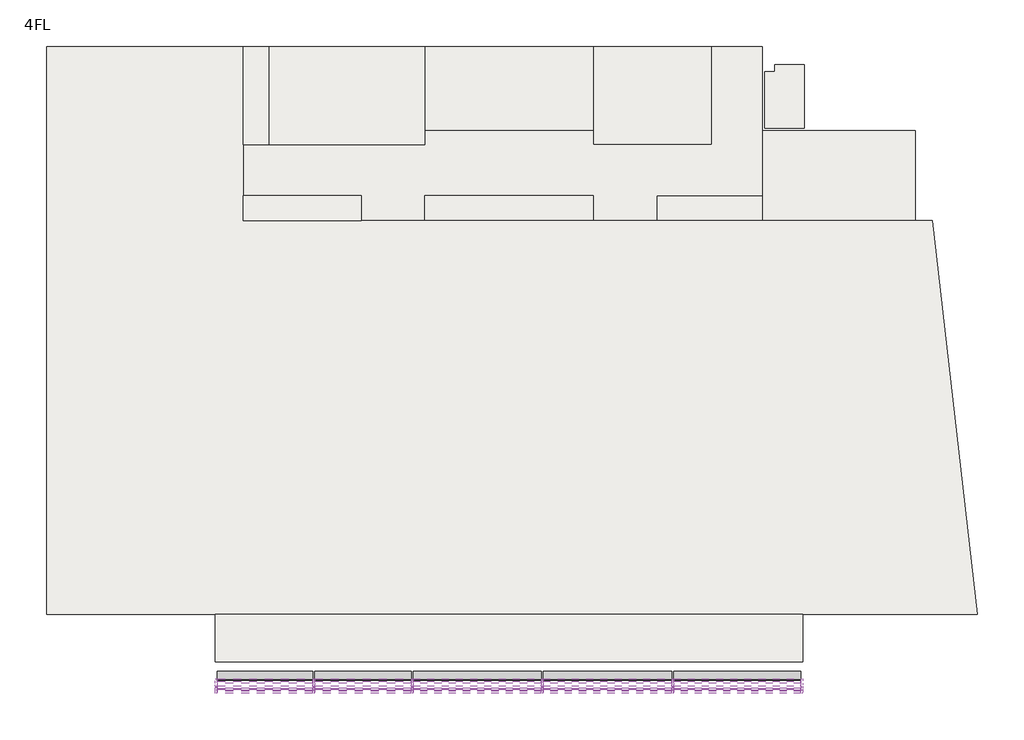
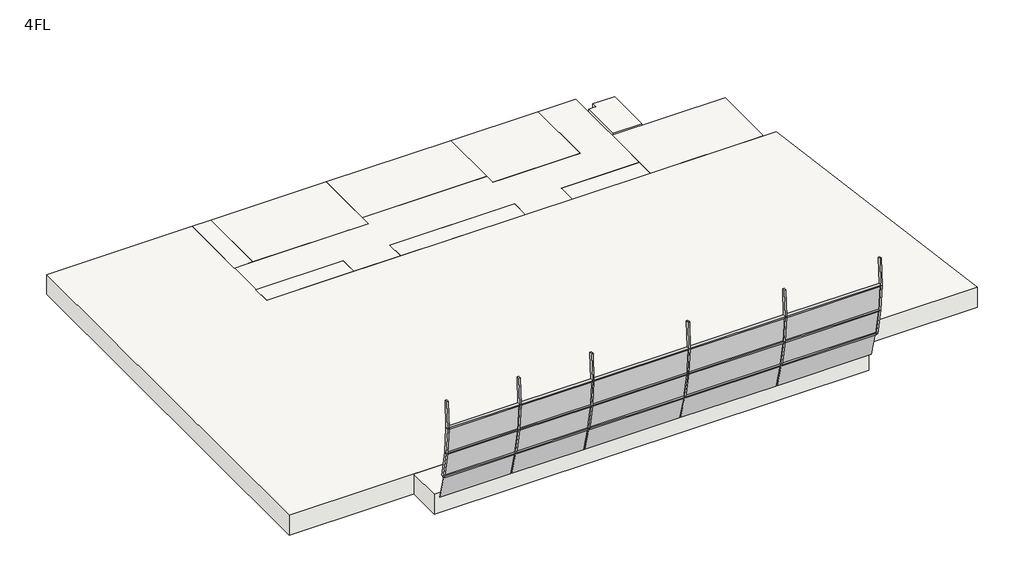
# One storey: 33 members, 15 plates, 12 slabs.
"""IFC4 building model written with IfcOpenShell, lengths in millimetres."""

from ifc_helpers import new_model, si_unit, frame, origin, place, context, project, spatial, polyline, outline, extrude, transform, mapped, element, save
from components import member_70x150_4d24a05e, member_70x150_d36ba8ce, member_70x150_5c89d520, member_70x150_7418113c, member_70x150_49631fa4, member_70x150_b58b1f55, member_70x150_9f3e030a, member_70x150_fc65bdc9, member_70x150_b9ec8dcc, member_70x150_0e33257c, member_70x150_66c9c7cc, member_70x150_285ebe9a, member_70x150_f63319ac, plate_d82af523, plate_48b88b42, plate_7301dfc9, plate_371e701f, plate_8de86a88, plate_27c09c2a, plate_88d5d3b8, plate_6cc786bc, plate_98c14705, plate_866a2cd3, plate_3d523d60, plate_eb713791

model = new_model("IFC4")

# Units and contexts
model_context = context("Model", 3, world=origin())
ifc_project = project(units=[si_unit("LENGTHUNIT", "METRE", prefix="MILLI")], contexts=[model_context])

# Site, building, storey
site = spatial("IfcSite", under=ifc_project)
building = spatial("IfcBuilding", under=site)
storey = spatial("IfcBuildingStorey", under=building, Name="4FL", Elevation=12600.0)

# Members
placement = place(None, origin())
member_70x150_shape = member_70x150_4d24a05e(model_context)
element("IfcMember", 1, ObjectType="長方形のマリオン : 70x150", at=placement, inside=storey, context=model_context, shape_type="MappedRepresentation", body=[
    mapped(member_70x150_shape, transform((-2015.9784025, -6300.1467421, 16600.0001959), x_axis=(0.0, -0.017107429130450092, 0.9998536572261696), y_axis=(0.0, -0.9998536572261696, -0.017107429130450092), z_axis=(1.0, 0.0, 0.0))),
])
element("IfcMember", 2, ObjectType="長方形のマリオン : 70x150", at=placement, inside=storey, context=model_context, shape_type="MappedRepresentation", body=[
    mapped(member_70x150_shape, transform((-2015.9784025, -6189.0499692, 15268.7417332), x_axis=(0.0, -0.14243240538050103, 0.9898045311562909), y_axis=(0.0, -0.9898045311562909, -0.14243240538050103), z_axis=(1.0, 0.0, 0.0))),
])
element("IfcMember", 3, ObjectType="長方形のマリオン : 70x150", at=placement, inside=storey, context=model_context, shape_type="MappedRepresentation", body=[
    mapped(member_70x150_shape, transform((-2015.9784025, -5931.9972221, 13935.1229806), x_axis=(0.0, -0.22949640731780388, 0.9733095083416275), y_axis=(0.0, -0.9733095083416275, -0.22949640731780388), z_axis=(1.0, 0.0, 0.0))),
])
member_70x150_2_shape = member_70x150_d36ba8ce(model_context)
element("IfcMember", 4, ObjectType="長方形のマリオン : 70x150", at=placement, inside=storey, context=model_context, shape_type="MappedRepresentation", body=[
    mapped(member_70x150_2_shape, transform((-19380.9784025, -5931.9972221, 13935.1229806), x_axis=(0.0, -0.2294964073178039, 0.9733095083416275), y_axis=(0.0, -0.9733095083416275, -0.2294964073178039), z_axis=(1.0, 0.0, 0.0))),
])
element("IfcMember", 5, ObjectType="長方形のマリオン : 70x150", at=placement, inside=storey, context=model_context, shape_type="MappedRepresentation", body=[
    mapped(member_70x150_2_shape, transform((-19380.9784025, -6189.0499692, 15268.7417332), x_axis=(0.0, -0.14243240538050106, 0.9898045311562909), y_axis=(0.0, -0.9898045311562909, -0.14243240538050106), z_axis=(1.0, 0.0, 0.0))),
])
element("IfcMember", 6, ObjectType="長方形のマリオン : 70x150", at=placement, inside=storey, context=model_context, shape_type="MappedRepresentation", body=[
    mapped(member_70x150_2_shape, transform((-19380.9784025, -6300.1467421, 16600.0001959), x_axis=(0.0, -0.017107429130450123, 0.9998536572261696), y_axis=(0.0, -0.9998536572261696, -0.017107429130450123), z_axis=(1.0, 0.0, 0.0))),
])
member_70x150_3_shape = member_70x150_5c89d520(model_context)
element("IfcMember", 7, ObjectType="長方形のマリオン : 70x150", at=placement, inside=storey, context=model_context, shape_type="MappedRepresentation", body=[
    mapped(member_70x150_3_shape, transform((-6614.3117358, -6300.1467421, 16600.0001959), x_axis=(0.0, -0.017107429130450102, 0.9998536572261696), y_axis=(0.0, -0.9998536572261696, -0.017107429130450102), z_axis=(1.0, 0.0, 0.0))),
])
element("IfcMember", 8, ObjectType="長方形のマリオン : 70x150", at=placement, inside=storey, context=model_context, shape_type="MappedRepresentation", body=[
    mapped(member_70x150_3_shape, transform((-11247.6450692, -6189.0499692, 15268.7417332), x_axis=(0.0, -0.1424324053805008, 0.9898045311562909), y_axis=(0.0, -0.9898045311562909, -0.1424324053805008), z_axis=(1.0, 0.0, 0.0))),
])
element("IfcMember", 9, ObjectType="長方形のマリオン : 70x150", at=placement, inside=storey, context=model_context, shape_type="MappedRepresentation", body=[
    mapped(member_70x150_3_shape, transform((-6614.3117358, -5931.9972221, 13935.1229806), x_axis=(0.0, -0.2294964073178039, 0.9733095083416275), y_axis=(0.0, -0.9733095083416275, -0.2294964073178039), z_axis=(1.0, 0.0, 0.0))),
])
element("IfcMember", 10, ObjectType="長方形のマリオン : 70x150", at=placement, inside=storey, context=model_context, shape_type="MappedRepresentation", body=[
    mapped(member_70x150_3_shape, transform((-11247.6450692, -5931.9972221, 13935.1229806), x_axis=(0.0, -0.22949640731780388, 0.9733095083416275), y_axis=(0.0, -0.9733095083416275, -0.22949640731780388), z_axis=(1.0, 0.0, 0.0))),
])
element("IfcMember", 11, ObjectType="長方形のマリオン : 70x150", at=placement, inside=storey, context=model_context, shape_type="MappedRepresentation", body=[
    mapped(member_70x150_3_shape, transform((-6614.3117358, -6189.0499692, 15268.7417332), x_axis=(0.0, -0.1424324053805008, 0.9898045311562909), y_axis=(0.0, -0.9898045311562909, -0.1424324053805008), z_axis=(1.0, 0.0, 0.0))),
])
element("IfcMember", 12, ObjectType="長方形のマリオン : 70x150", at=placement, inside=storey, context=model_context, shape_type="MappedRepresentation", body=[
    mapped(member_70x150_3_shape, transform((-11247.6450692, -6300.1467421, 16600.0001959), x_axis=(0.0, -0.017107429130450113, 0.9998536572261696), y_axis=(0.0, -0.9998536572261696, -0.017107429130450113), z_axis=(1.0, 0.0, 0.0))),
])
member_70x150_4_shape = member_70x150_7418113c(model_context)
element("IfcMember", 13, ObjectType="長方形のマリオン : 70x150", at=placement, inside=storey, context=model_context, shape_type="MappedRepresentation", body=[
    mapped(member_70x150_4_shape, transform((-15880.9784025, -5931.9972221, 13935.1229806), x_axis=(0.0, -0.22949640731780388, 0.9733095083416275), y_axis=(0.0, -0.9733095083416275, -0.22949640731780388), z_axis=(1.0, 0.0, 0.0))),
])
element("IfcMember", 14, ObjectType="長方形のマリオン : 70x150", at=placement, inside=storey, context=model_context, shape_type="MappedRepresentation", body=[
    mapped(member_70x150_4_shape, transform((-15880.9784025, -6189.0499692, 15268.7417332), x_axis=(0.0, -0.1424324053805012, 0.9898045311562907), y_axis=(0.0, -0.9898045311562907, -0.1424324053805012), z_axis=(1.0, 0.0, 0.0))),
])
element("IfcMember", 15, ObjectType="長方形のマリオン : 70x150", at=placement, inside=storey, context=model_context, shape_type="MappedRepresentation", body=[
    mapped(member_70x150_4_shape, transform((-15880.9784025, -6300.1467421, 16600.0001959), x_axis=(0.0, -0.01710742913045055, 0.9998536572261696), y_axis=(0.0, -0.9998536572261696, -0.01710742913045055), z_axis=(1.0, 0.0, 0.0))),
])
member_70x150_5_shape = member_70x150_49631fa4(model_context)
element("IfcMember", 16, ObjectType="長方形のマリオン : 70x150", at=placement, inside=storey, context=model_context, shape_type="MappedRepresentation", body=[
    mapped(member_70x150_5_shape, transform((-15845.9784025, -6189.0499692, 15268.7417332), x_axis=(1.0, 0.0, 0.0), y_axis=(0.0, -0.9965359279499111, -0.08316335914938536), z_axis=(0.0, 0.08316335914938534, -0.9965359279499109))),
])
element("IfcMember", 17, ObjectType="長方形のマリオン : 70x150", at=placement, inside=storey, context=model_context, shape_type="MappedRepresentation", body=[
    mapped(member_70x150_5_shape, transform((-6579.3117358, -6189.0499692, 15268.7417332), x_axis=(1.0, 0.0, 0.0), y_axis=(0.0, -0.9965359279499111, -0.08316335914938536), z_axis=(0.0, 0.08316335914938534, -0.9965359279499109))),
])
element("IfcMember", 18, ObjectType="長方形のマリオン : 70x150", at=placement, inside=storey, context=model_context, shape_type="MappedRepresentation", body=[
    mapped(member_70x150_5_shape, transform((-11212.6450692, -6189.0499692, 15268.7417332), x_axis=(1.0, 0.0, 0.0), y_axis=(0.0, -0.9965359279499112, -0.08316335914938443), z_axis=(0.0, 0.08316335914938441, -0.9965359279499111))),
])
element("IfcMember", 19, ObjectType="長方形のマリオン : 70x150", at=placement, inside=storey, context=model_context, shape_type="MappedRepresentation", body=[
    mapped(member_70x150_5_shape, transform((-19345.9784025, -6189.0499692, 15268.7417332), x_axis=(1.0, 0.0, 0.0), y_axis=(0.0, -0.9965359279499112, -0.08316335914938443), z_axis=(0.0, 0.08316335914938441, -0.9965359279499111))),
])
member_70x150_6_shape = member_70x150_b58b1f55(model_context)
element("IfcMember", 20, ObjectType="長方形のマリオン : 70x150", at=placement, inside=storey, context=model_context, shape_type="MappedRepresentation", body=[
    mapped(member_70x150_6_shape, transform((-15845.9784025, -6300.1467421, 16600.0001959), x_axis=(1.0, 0.0, 0.0), y_axis=(0.0, -0.9987203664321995, 0.05057301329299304), z_axis=(0.0, -0.05057301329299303, -0.9987203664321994))),
])
element("IfcMember", 21, ObjectType="長方形のマリオン : 70x150", at=placement, inside=storey, context=model_context, shape_type="MappedRepresentation", body=[
    mapped(member_70x150_6_shape, transform((-6579.3117358, -6300.1467421, 16600.0001959), x_axis=(1.0, 0.0, 0.0), y_axis=(0.0, -0.9987203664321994, 0.05057301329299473), z_axis=(0.0, -0.05057301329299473, -0.9987203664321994))),
])
element("IfcMember", 22, ObjectType="長方形のマリオン : 70x150", at=placement, inside=storey, context=model_context, shape_type="MappedRepresentation", body=[
    mapped(member_70x150_6_shape, transform((-11212.6450692, -6300.1467421, 16600.0001959), x_axis=(1.0, 0.0, 0.0), y_axis=(0.0, -0.9987203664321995, 0.05057301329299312), z_axis=(0.0, -0.050573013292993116, -0.9987203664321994))),
])
element("IfcMember", 23, ObjectType="長方形のマリオン : 70x150", at=placement, inside=storey, context=model_context, shape_type="MappedRepresentation", body=[
    mapped(member_70x150_6_shape, transform((-19345.9784025, -6300.1467421, 16600.0001959), x_axis=(1.0, 0.0, 0.0), y_axis=(0.0, -0.9987203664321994, 0.05057301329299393), z_axis=(0.0, -0.05057301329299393, -0.9987203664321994))),
])
member_70x150_7_shape = member_70x150_9f3e030a(model_context)
element("IfcMember", 24, ObjectType="長方形のマリオン : 70x150", at=placement, inside=storey, context=model_context, shape_type="MappedRepresentation", body=[
    mapped(member_70x150_7_shape, transform((-1945.9784025, -5931.9972221, 13935.1229806), x_axis=(1.0, 0.0, 0.0), y_axis=(0.0, -0.9819261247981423, -0.18926459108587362), z_axis=(0.0, 0.18926459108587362, -0.9819261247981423))),
])
member_70x150_8_shape = member_70x150_fc65bdc9(model_context)
element("IfcMember", 25, ObjectType="長方形のマリオン : 70x150", at=placement, inside=storey, context=model_context, shape_type="MappedRepresentation", body=[
    mapped(member_70x150_8_shape, transform((-1945.9784025, -6189.0499692, 15268.7417332), x_axis=(1.0, 0.0, 0.0), y_axis=(0.0, -0.9965359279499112, -0.08316335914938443), z_axis=(0.0, 0.08316335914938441, -0.9965359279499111))),
])
member_70x150_9_shape = member_70x150_b9ec8dcc(model_context)
element("IfcMember", 26, ObjectType="長方形のマリオン : 70x150", at=placement, inside=storey, context=model_context, shape_type="MappedRepresentation", body=[
    mapped(member_70x150_9_shape, transform((-22845.9784025, -6300.1467421, 16600.0001959), x_axis=(-1.0, 0.0, 0.0), y_axis=(0.0, -0.9965359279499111, -0.08316335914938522), z_axis=(0.0, -0.08316335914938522, 0.9965359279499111))),
])
member_70x150_10_shape = member_70x150_0e33257c(model_context)
element("IfcMember", 27, ObjectType="長方形のマリオン : 70x150", at=placement, inside=storey, context=model_context, shape_type="MappedRepresentation", body=[
    mapped(member_70x150_10_shape, transform((-1945.9784025, -6300.1467421, 16600.0001959), x_axis=(1.0, 0.0, 0.0), y_axis=(0.0, -0.9987203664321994, 0.05057301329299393), z_axis=(0.0, -0.05057301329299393, -0.9987203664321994))),
])
member_70x150_11_shape = member_70x150_66c9c7cc(model_context)
element("IfcMember", 28, ObjectType="長方形のマリオン : 70x150", at=placement, inside=storey, context=model_context, shape_type="MappedRepresentation", body=[
    mapped(member_70x150_11_shape, transform((-22845.9784025, -6189.0499692, 15268.7417332), x_axis=(-1.0, 0.0, 0.0), y_axis=(0.0, -0.9819261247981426, -0.18926459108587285), z_axis=(0.0, -0.18926459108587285, 0.9819261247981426))),
])
member_70x150_12_shape = member_70x150_285ebe9a(model_context)
element("IfcMember", 29, ObjectType="長方形のマリオン : 70x150", at=placement, inside=storey, context=model_context, shape_type="MappedRepresentation", body=[
    mapped(member_70x150_12_shape, transform((-22845.9784025, -6232.5328334, 17935.2456809), x_axis=(-1.0, 0.0, 0.0), y_axis=(0.0, -0.9987203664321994, 0.05057301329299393), z_axis=(0.0, 0.05057301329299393, 0.9987203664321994))),
])
member_70x150_13_shape = member_70x150_f63319ac(model_context)
element("IfcMember", 30, ObjectType="長方形のマリオン : 70x150", at=placement, inside=storey, context=model_context, shape_type="MappedRepresentation", body=[
    mapped(member_70x150_13_shape, transform((-6579.3117358, -5931.9972221, 13935.1229806), x_axis=(1.0, 0.0, 0.0), y_axis=(0.0, -0.9819261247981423, -0.18926459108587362), z_axis=(0.0, 0.18926459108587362, -0.9819261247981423))),
])
element("IfcMember", 31, ObjectType="長方形のマリオン : 70x150", at=placement, inside=storey, context=model_context, shape_type="MappedRepresentation", body=[
    mapped(member_70x150_13_shape, transform((-11212.6450692, -5931.9972221, 13935.1229806), x_axis=(1.0, 0.0, 0.0), y_axis=(0.0, -0.9819261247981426, -0.18926459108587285), z_axis=(0.0, 0.18926459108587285, -0.9819261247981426))),
])
element("IfcMember", 32, ObjectType="長方形のマリオン : 70x150", at=placement, inside=storey, context=model_context, shape_type="MappedRepresentation", body=[
    mapped(member_70x150_13_shape, transform((-19345.9784025, -5931.9972221, 13935.1229806), x_axis=(1.0, 0.0, 0.0), y_axis=(0.0, -0.9819261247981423, -0.18926459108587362), z_axis=(0.0, 0.18926459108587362, -0.9819261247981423))),
])
element("IfcMember", 33, ObjectType="長方形のマリオン : 70x150", at=placement, inside=storey, context=model_context, shape_type="MappedRepresentation", body=[
    mapped(member_70x150_13_shape, transform((-15845.9784025, -5931.9972221, 13935.1229806), x_axis=(1.0, 0.0, 0.0), y_axis=(0.0, -0.9819261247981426, -0.18926459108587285), z_axis=(0.0, 0.18926459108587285, -0.9819261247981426))),
])

# Plates
plate_shape = plate_d82af523(model_context)
element("IfcPlate", 34, ObjectType="システム パネル : 標準", at=placement, inside=storey, context=model_context, shape_type="MappedRepresentation", body=[
    mapped(plate_shape, transform((-21078.4784025, -5584.1257928, 12633.8126833), x_axis=(1.0, 0.0, 0.0), y_axis=(0.0, 0.9660766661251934, 0.25825544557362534), z_axis=(0.0, -0.25825544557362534, 0.9660766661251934))),
])
plate_2_shape = plate_48b88b42(model_context)
element("IfcPlate", 35, ObjectType="システム パネル : 標準", at=placement, inside=storey, context=model_context, shape_type="MappedRepresentation", body=[
    mapped(plate_2_shape, transform((-21078.4784025, -6191.9606868, 15303.6204906), x_axis=(1.0, 0.0, 0.0), y_axis=(0.0, 0.9965359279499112, 0.08316335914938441), z_axis=(0.0, -0.08316335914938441, 0.9965359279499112))),
])
plate_3_shape = plate_7301dfc9(model_context)
element("IfcPlate", 36, ObjectType="システム パネル : 標準", at=placement, inside=storey, context=model_context, shape_type="MappedRepresentation", body=[
    mapped(plate_3_shape, transform((-21078.4784025, -5938.6214827, 13969.490395), x_axis=(1.0, 0.0, 0.0), y_axis=(0.0, 0.9819261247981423, 0.18926459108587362), z_axis=(0.0, -0.18926459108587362, 0.9819261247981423))),
])
plate_4_shape = plate_371e701f(model_context)
element("IfcPlate", 37, ObjectType="システム パネル : 標準", at=placement, inside=storey, context=model_context, shape_type="MappedRepresentation", body=[
    mapped(plate_4_shape, transform((-13529.3117358, -5584.1257928, 12633.8126833), x_axis=(1.0, 0.0, 0.0), y_axis=(0.0, 0.9660766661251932, 0.258255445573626), z_axis=(0.0, -0.258255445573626, 0.9660766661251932))),
])
element("IfcPlate", 38, ObjectType="システム パネル : 標準", at=placement, inside=storey, context=model_context, shape_type="MappedRepresentation", body=[
    mapped(plate_4_shape, transform((-8895.9784025, -5584.1257928, 12633.8126833), x_axis=(1.0, 0.0, 0.0), y_axis=(0.0, 0.9660766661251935, 0.25825544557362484), z_axis=(0.0, -0.25825544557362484, 0.9660766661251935))),
])
plate_5_shape = plate_8de86a88(model_context)
element("IfcPlate", 39, ObjectType="システム パネル : 標準", at=placement, inside=storey, context=model_context, shape_type="MappedRepresentation", body=[
    mapped(plate_5_shape, transform((-13529.3117358, -5938.6214827, 13969.490395), x_axis=(1.0, 0.0, 0.0), y_axis=(0.0, 0.9819261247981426, 0.18926459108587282), z_axis=(0.0, -0.18926459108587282, 0.9819261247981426))),
])
element("IfcPlate", 40, ObjectType="システム パネル : 標準", at=placement, inside=storey, context=model_context, shape_type="MappedRepresentation", body=[
    mapped(plate_5_shape, transform((-8895.9784025, -5938.6214827, 13969.490395), x_axis=(1.0, 0.0, 0.0), y_axis=(0.0, 0.9819261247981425, 0.18926459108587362), z_axis=(0.0, -0.18926459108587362, 0.9819261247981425))),
])
plate_6_shape = plate_27c09c2a(model_context)
element("IfcPlate", 41, ObjectType="システム パネル : 標準", at=placement, inside=storey, context=model_context, shape_type="MappedRepresentation", body=[
    mapped(plate_6_shape, transform((-13529.3117358, -6191.9606868, 15303.6204906), x_axis=(1.0, 0.0, 0.0), y_axis=(0.0, 0.9965359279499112, 0.08316335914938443), z_axis=(0.0, -0.08316335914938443, 0.9965359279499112))),
])
element("IfcPlate", 42, ObjectType="システム パネル : 標準", at=placement, inside=storey, context=model_context, shape_type="MappedRepresentation", body=[
    mapped(plate_6_shape, transform((-8895.9784025, -6191.9606868, 15303.6204906), x_axis=(1.0, 0.0, 0.0), y_axis=(0.0, 0.9965359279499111, 0.08316335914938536), z_axis=(0.0, -0.08316335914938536, 0.9965359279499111))),
])
plate_7_shape = plate_88d5d3b8(model_context)
element("IfcPlate", 43, ObjectType="システム パネル : 標準", at=placement, inside=storey, context=model_context, shape_type="MappedRepresentation", body=[
    mapped(plate_7_shape, transform((-17595.9784025, -5584.1257928, 12633.8126833), x_axis=(1.0, 0.0, 0.0), y_axis=(0.0, 0.9660766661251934, 0.2582554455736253), z_axis=(0.0, -0.2582554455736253, 0.9660766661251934))),
])
plate_8_shape = plate_6cc786bc(model_context)
element("IfcPlate", 44, ObjectType="システム パネル : 標準", at=placement, inside=storey, context=model_context, shape_type="MappedRepresentation", body=[
    mapped(plate_8_shape, transform((-17595.9784025, -5938.6214827, 13969.490395), x_axis=(1.0, 0.0, 0.0), y_axis=(0.0, 0.9819261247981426, 0.18926459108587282), z_axis=(0.0, -0.18926459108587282, 0.9819261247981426))),
])
plate_9_shape = plate_98c14705(model_context)
element("IfcPlate", 45, ObjectType="システム パネル : 標準", at=placement, inside=storey, context=model_context, shape_type="MappedRepresentation", body=[
    mapped(plate_9_shape, transform((-17595.9784025, -6191.9606868, 15303.6204906), x_axis=(1.0, 0.0, 0.0), y_axis=(0.0, 0.9965359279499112, 0.08316335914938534), z_axis=(0.0, -0.08316335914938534, 0.9965359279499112))),
])
plate_10_shape = plate_866a2cd3(model_context)
element("IfcPlate", 46, ObjectType="システム パネル : 標準", at=placement, inside=storey, context=model_context, shape_type="MappedRepresentation", body=[
    mapped(plate_10_shape, transform((-4280.1450692, -5584.1257928, 12633.8126833), x_axis=(1.0, 0.0, 0.0), y_axis=(0.0, 0.9660766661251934, 0.2582554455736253), z_axis=(0.0, -0.2582554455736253, 0.9660766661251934))),
])
plate_11_shape = plate_3d523d60(model_context)
element("IfcPlate", 47, ObjectType="システム パネル : 標準", at=placement, inside=storey, context=model_context, shape_type="MappedRepresentation", body=[
    mapped(plate_11_shape, transform((-4280.1450692, -5938.6214827, 13969.490395), x_axis=(1.0, 0.0, 0.0), y_axis=(0.0, 0.9819261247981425, 0.18926459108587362), z_axis=(0.0, -0.18926459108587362, 0.9819261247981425))),
])
plate_12_shape = plate_eb713791(model_context)
element("IfcPlate", 48, ObjectType="システム パネル : 標準", at=placement, inside=storey, context=model_context, shape_type="MappedRepresentation", body=[
    mapped(plate_12_shape, transform((-4280.1450692, -6191.9606868, 15303.6204906), x_axis=(1.0, 0.0, 0.0), y_axis=(0.0, 0.9965359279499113, 0.08316335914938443), z_axis=(0.0, -0.08316335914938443, 0.9965359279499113))),
])

# Slabs
element("IfcSlab", 49, ObjectType="企画1000", at=placement, inside=storey, context=model_context, shape_type="SweptSolid", body=[
    extrude(outline(polyline([(-17645.9784025, 11349.6868987), (-17645.9784025, 10449.6868987), (-21845.9784025, 10449.6868987), (-21845.9784025, 11349.6868987), (-17645.9784025, 11349.6868987)])), frame((0.0, 0.0, 11600.0), z_axis=(0.0, 0.0, 1.0), x_axis=(1.0, 0.0, 0.0)), (0.0, 0.0, 1.0), 1000.0),
])
element("IfcSlab", 50, ObjectType="企画1000", at=placement, inside=storey, context=model_context, shape_type="SweptSolid", body=[
    extrude(outline(polyline([(-20945.9784025, 16649.6868987), (-20945.9784025, 13149.6868987), (-21845.9784025, 13149.6868987), (-21845.9784025, 16649.6868987), (-20945.9784025, 16649.6868987)])), frame((0.0, 0.0, 11600.0), z_axis=(0.0, 0.0, 1.0), x_axis=(1.0, 0.0, 0.0)), (0.0, 0.0, 1.0), 1000.0),
])
element("IfcSlab", 51, ObjectType="企画1000", at=placement, inside=storey, context=model_context, shape_type="SweptSolid", body=[
    extrude(outline(polyline([(-9395.9784025, 16649.6868987), (-9395.9784025, 13649.6868987), (-15395.9784025, 13649.6868987), (-15395.9784025, 16649.6868987), (-9395.9784025, 16649.6868987)])), frame((0.0, 0.0, 11600.0), z_axis=(0.0, 0.0, 1.0), x_axis=(1.0, 0.0, 0.0)), (0.0, 0.0, 1.0), 1000.0),
])
element("IfcSlab", 52, ObjectType="企画1000", at=placement, inside=storey, context=model_context, shape_type="SweptSolid", body=[
    extrude(outline(polyline([(-28845.9784025, -3550.3131013), (-28845.9784025, 16649.6868987), (-21845.9784025, 16649.6868987), (-21845.9784025, 10449.6868987), (2661.9595949, 10449.6868987), (4261.9595949, -3550.3131013), (-28845.9784025, -3550.3131013)])), frame((0.0, 0.0, 11600.0), z_axis=(0.0, 0.0, 1.0), x_axis=(1.0, 0.0, 0.0)), (0.0, 0.0, 1.0), 1000.0),
])
element("IfcSlab", 53, ObjectType="企画1000", at=placement, inside=storey, context=model_context, shape_type="SweptSolid", body=[
    extrude(outline(polyline([(-9395.9784025, 11349.6868987), (-9395.9784025, 10449.6868987), (-15395.9784025, 10449.6868987), (-15395.9784025, 11349.6868987), (-9395.9784025, 11349.6868987)])), frame((0.0, 0.0, 11600.0), z_axis=(0.0, 0.0, 1.0), x_axis=(1.0, 0.0, 0.0)), (0.0, 0.0, 1.0), 1000.0),
])
element("IfcSlab", 54, ObjectType="企画1000", at=placement, inside=storey, context=model_context, shape_type="SweptSolid", body=[
    extrude(outline(polyline([(2054.0215975, 13649.6868987), (2054.0215975, 10449.6868987), (-3395.9784025, 10449.6868987), (-3395.9784025, 13649.6868987), (2054.0215975, 13649.6868987)])), frame((0.0, 0.0, 11600.0), z_axis=(0.0, 0.0, 1.0), x_axis=(1.0, 0.0, 0.0)), (0.0, 0.0, 1.0), 1000.0),
])
element("IfcSlab", 55, ObjectType="企画1000", at=placement, inside=storey, context=model_context, shape_type="SweptSolid", body=[
    extrude(outline(polyline([(-15395.9784025, 13149.6868987), (-15395.9784025, 13649.6868987), (-9395.9784025, 13649.6868987), (-9395.9784025, 13149.6868987), (-5195.9784025, 13149.6868987), (-5195.9784025, 16649.6868987), (-3395.9784025, 16649.6868987), (-3395.9784025, 11349.6868987), (-7145.9784025, 11349.6868987), (-7145.9784025, 10449.6868987), (-9395.9784025, 10449.6868987), (-9395.9784025, 11349.6868987), (-15395.9784025, 11349.6868987), (-15395.9784025, 10449.6868987), (-17645.9784025, 10449.6868987), (-17645.9784025, 11349.6868987), (-21845.9784025, 11349.6868987), (-21845.9784025, 13149.6868987), (-15395.9784025, 13149.6868987)])), frame((0.0, 0.0, 11600.0), z_axis=(0.0, 0.0, 1.0), x_axis=(1.0, 0.0, 0.0)), (0.0, 0.0, 1.0), 1000.0),
])
element("IfcSlab", 56, ObjectType="企画1000", at=placement, inside=storey, context=model_context, shape_type="SweptSolid", body=[
    extrude(outline(polyline([(-15395.9784025, 16649.6868987), (-15395.9784025, 13149.6868987), (-20945.9784025, 13149.6868987), (-20945.9784025, 16649.6868987), (-15395.9784025, 16649.6868987)])), frame((0.0, 0.0, 11600.0), z_axis=(0.0, 0.0, 1.0), x_axis=(1.0, 0.0, 0.0)), (0.0, 0.0, 1.0), 1000.0),
])
element("IfcSlab", 57, ObjectType="企画1000", at=placement, inside=storey, context=model_context, shape_type="SweptSolid", body=[
    extrude(outline(polyline([(-5195.9784025, 16649.6868987), (-5195.9784025, 13149.6868987), (-9395.9784025, 13149.6868987), (-9395.9784025, 16649.6868987), (-5195.9784025, 16649.6868987)])), frame((0.0, 0.0, 11600.0), z_axis=(0.0, 0.0, 1.0), x_axis=(1.0, 0.0, 0.0)), (0.0, 0.0, 1.0), 1000.0),
])
element("IfcSlab", 58, ObjectType="企画1000", at=placement, inside=storey, context=model_context, shape_type="SweptSolid", body=[
    extrude(outline(polyline([(-3395.9784025, 11349.6868987), (-3395.9784025, 10449.6868987), (-7145.9784025, 10449.6868987), (-7145.9784025, 11349.6868987), (-3395.9784025, 11349.6868987)])), frame((0.0, 0.0, 11600.0), z_axis=(0.0, 0.0, 1.0), x_axis=(1.0, 0.0, 0.0)), (0.0, 0.0, 1.0), 1000.0),
])
element("IfcSlab", 59, ObjectType="企画1000", at=placement, inside=storey, context=model_context, shape_type="SweptSolid", body=[
    extrude(outline(polyline([(-1945.9784025, -3550.3131013), (-1945.9784025, -5250.3131013), (-22845.9784025, -5250.3131013), (-22845.9784025, -3550.3131013), (-1945.9784025, -3550.3131013)])), frame((0.0, 0.0, 11600.0), z_axis=(0.0, 0.0, 1.0), x_axis=(1.0, 0.0, 0.0)), (0.0, 0.0, 1.0), 1000.0),
])
element("IfcSlab", 60, ObjectType="RC250", at=placement, inside=storey, context=model_context, shape_type="SweptSolid", body=[
    extrude(outline(polyline([(-2945.9784025, 15999.6868987), (-1895.9784025, 15999.6868987), (-1895.9784025, 13749.6868987), (-3295.9784025, 13749.6868987), (-3295.9784025, 15749.6868987), (-2945.9784025, 15749.6868987), (-2945.9784025, 15999.6868987)])), frame((0.0, 0.0, 12350.0), z_axis=(0.0, 0.0, 1.0), x_axis=(1.0, 0.0, 0.0)), (0.0, 0.0, 1.0), 250.0),
])

save(model, "model.ifc")
